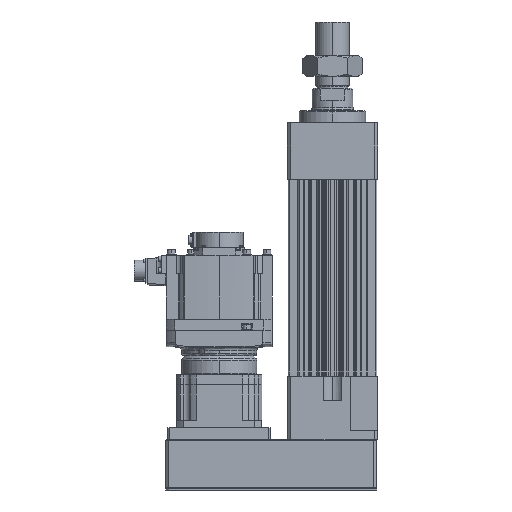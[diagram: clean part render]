
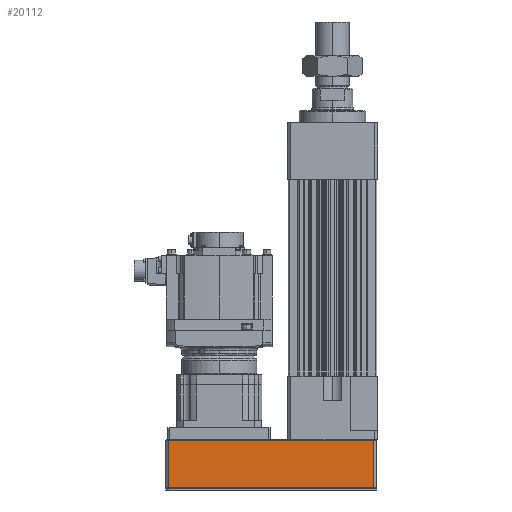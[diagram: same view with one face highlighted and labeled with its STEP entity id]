
A CAD part, left-side view. The second image highlights one B-rep face of the part: STEP entity #20112.
In plain terms, the highlighted planar face has unit normal (-1, 0, 0).
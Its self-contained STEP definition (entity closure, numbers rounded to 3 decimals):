
#324 = FACE_OUTER_BOUND ( 'NONE', #24454, .T. ) ;
#798 = LINE ( 'NONE', #25936, #9265 ) ;
#1912 = VECTOR ( 'NONE', #26984, 1000. ) ;
#2789 = ORIENTED_EDGE ( 'NONE', *, *, #21142, .T. ) ;
#6037 = CARTESIAN_POINT ( 'NONE',  ( -73.5, -68.5, -185.5 ) ) ;
#6253 = CARTESIAN_POINT ( 'NONE',  ( -73.5, 271.5, -186. ) ) ;
#6516 = LINE ( 'NONE', #6253, #1912 ) ;
#7220 = EDGE_CURVE ( 'NONE', #49847, #30046, #6516, .T. ) ;
#7533 = DIRECTION ( 'NONE',  ( 0., 1., 0. ) ) ;
#9083 = CARTESIAN_POINT ( 'NONE',  ( -73.5, 271.5, -185.5 ) ) ;
#9265 = VECTOR ( 'NONE', #10276, 1000. ) ;
#10276 = DIRECTION ( 'NONE',  ( 0., 0., 1. ) ) ;
#10451 = ORIENTED_EDGE ( 'NONE', *, *, #7220, .F. ) ;
#13563 = PLANE ( 'NONE',  #36414 ) ;
#16687 = CARTESIAN_POINT ( 'NONE',  ( -73.5, -68.5, -185.5 ) ) ;
#17582 = CARTESIAN_POINT ( 'NONE',  ( -73.5, -68.5, -186. ) ) ;
#17752 = DIRECTION ( 'NONE',  ( 1., 0., 0. ) ) ;
#19597 = LINE ( 'NONE', #6037, #52816 ) ;
#20112 = ADVANCED_FACE ( 'NONE', ( #324 ), #13563, .F. ) ;
#20848 = ORIENTED_EDGE ( 'NONE', *, *, #29395, .T. ) ;
#20862 = VERTEX_POINT ( 'NONE', #30488 ) ;
#21142 = EDGE_CURVE ( 'NONE', #20862, #30046, #41291, .T. ) ;
#21774 = DIRECTION ( 'NONE',  ( 0., 1., 0. ) ) ;
#23316 = CARTESIAN_POINT ( 'NONE',  ( -73.5, 271.5, -106.5 ) ) ;
#24454 = EDGE_LOOP ( 'NONE', ( #10451, #50037, #20848, #2789 ) ) ;
#25280 = VERTEX_POINT ( 'NONE', #16687 ) ;
#25936 = CARTESIAN_POINT ( 'NONE',  ( -73.5, -68.5, -186. ) ) ;
#26948 = DIRECTION ( 'NONE',  ( 0., -1., 0. ) ) ;
#26984 = DIRECTION ( 'NONE',  ( 0., 0., 1. ) ) ;
#29395 = EDGE_CURVE ( 'NONE', #25280, #20862, #798, .T. ) ;
#30046 = VERTEX_POINT ( 'NONE', #23316 ) ;
#30488 = CARTESIAN_POINT ( 'NONE',  ( -73.5, -68.5, -106.5 ) ) ;
#32518 = EDGE_CURVE ( 'NONE', #49847, #25280, #19597, .T. ) ;
#36414 = AXIS2_PLACEMENT_3D ( 'NONE', #17582, #17752, #21774 ) ;
#40657 = CARTESIAN_POINT ( 'NONE',  ( -73.5, -68.5, -106.5 ) ) ;
#41291 = LINE ( 'NONE', #40657, #49742 ) ;
#49742 = VECTOR ( 'NONE', #7533, 1000. ) ;
#49847 = VERTEX_POINT ( 'NONE', #9083 ) ;
#50037 = ORIENTED_EDGE ( 'NONE', *, *, #32518, .T. ) ;
#52816 = VECTOR ( 'NONE', #26948, 1000. ) ;
